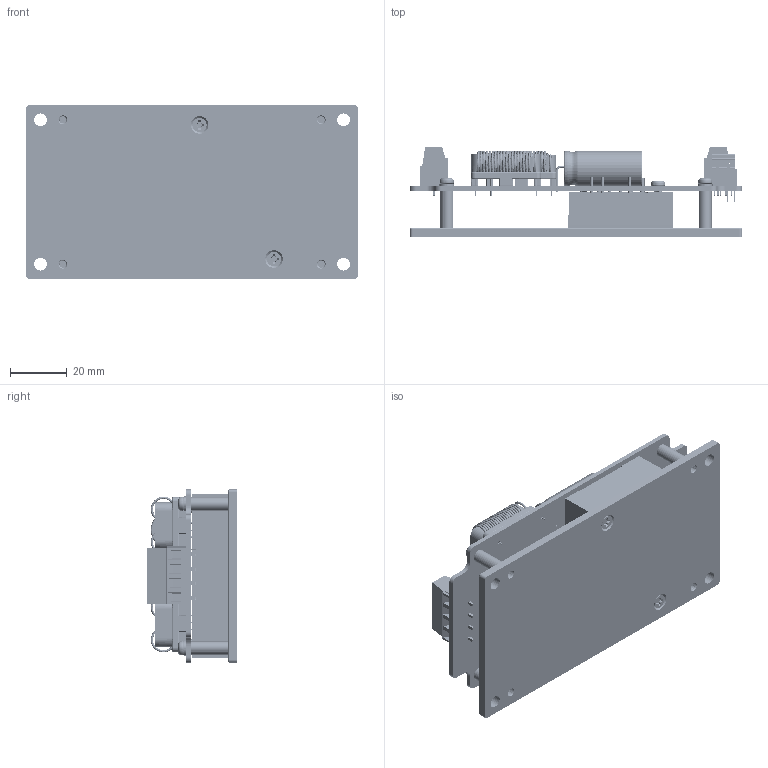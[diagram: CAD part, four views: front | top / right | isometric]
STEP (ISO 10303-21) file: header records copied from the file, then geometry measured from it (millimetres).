
FILE_DESCRIPTION (( 'STEP AP203' ), '1' );
FILE_NAME ('CQB150W-110SXX-CMFC 2023.07.19.STEP', '2023-07-20T00:28:40', ( '' ), ( '' ), 'SwSTEP 2.0', 'SolidWorks 2020', '' );
FILE_SCHEMA (( 'CONFIG_CONTROL_DESIGN' ));
Products named in the file (1): CQB150W-110SXX-CMFC 2023.07.19
Bounding box: 116.84 x 31.5 x 60.96 mm (x, y, z)
Volume: 75190 mm3; surface area: 53584.6 mm2
Topology: 9 solids, 9 shells, 2043 faces, 6425 edges, 4042 vertices
Faces by surface type: plane 1280, cylinder 311, bspline 285, cone 96, torus 37, sphere 34
Full cylindrical faces by diameter (mm): 0.5 x8, 0.8 x6, 0.9 x4, 1 x17, 1.15 x6, 1.2 x3, 1.4 x4, 1.5 x4, 1.65 x2, 1.8 x2, 3.2 x9, 3.25 x1, 3.8 x8, 4 x10, 4.3 x6, 4.445 x1, 4.5 x7, 4.7 x10, 5 x4, 7.8 x1, 8 x1, 8.8 x1, 12.6 x2
Entity records: 281690 total; most frequent: CARTESIAN_POINT 229892, ORIENTED_EDGE 11818, DIRECTION 8647, EDGE_CURVE 5909, VERTEX_POINT 3970, LINE 3557, VECTOR 3557, EDGE_LOOP 2749
